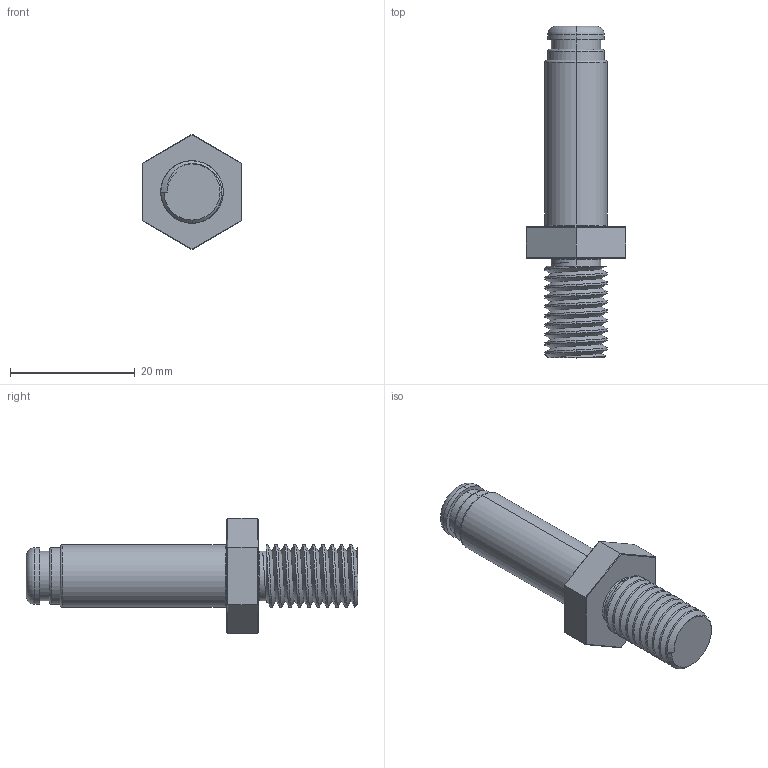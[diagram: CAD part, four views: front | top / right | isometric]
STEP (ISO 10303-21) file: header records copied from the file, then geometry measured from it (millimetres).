
FILE_DESCRIPTION (( 'STEP AP203' ), '1' );
FILE_NAME ('RL9100-10X.STEP', '2015-04-30T06:08:26', ( 'gasf' ), ( '' ), 'SwSTEP 2.0', 'SolidWorks 2012', '' );
FILE_SCHEMA (( 'CONFIG_CONTROL_DESIGN' ));
Length unit declared in the file: millimetre
Products named in the file (1): RL9100-10X
Bounding box: 16 x 53.2 x 18.48 mm (x, y, z)
Volume: 4576.8 mm3; surface area: 2513.8 mm2
Topology: 1 solids, 1 shells, 75 faces, 180 edges, 112 vertices
Faces by surface type: cylinder 31, plane 29, torus 10, cone 3, bspline 2
Entity records: 3341 total; most frequent: CARTESIAN_POINT 1637, ORIENTED_EDGE 360, DIRECTION 324, EDGE_CURVE 180, AXIS2_PLACEMENT_3D 122, VERTEX_POINT 112, LINE 80, VECTOR 80
